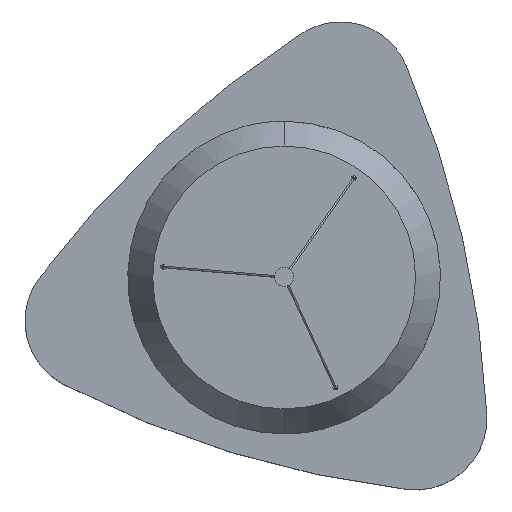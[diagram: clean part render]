
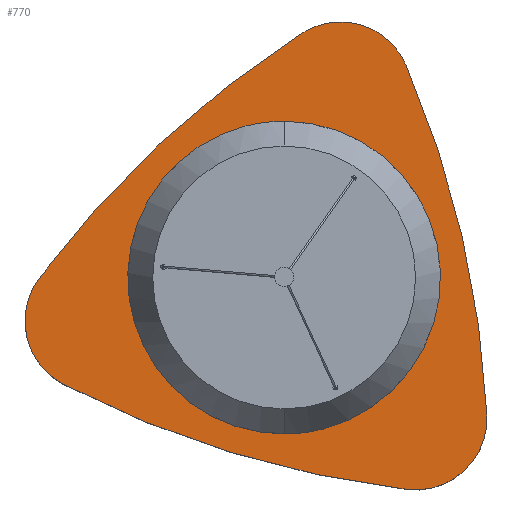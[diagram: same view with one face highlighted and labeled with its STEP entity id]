
A CAD part, top view. The second image highlights one B-rep face of the part: STEP entity #770.
In plain terms, the highlighted planar face has unit normal (0, 0, 1).
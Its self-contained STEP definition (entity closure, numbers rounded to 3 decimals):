
#10=CARTESIAN_POINT('',(44.814,196.086,
-4.8));
#20=DIRECTION('',(0.,0.,1.));
#30=DIRECTION('',(1.,0.,0.));
#40=AXIS2_PLACEMENT_3D('',#10,#20,#30);
#50=PLANE('',#40);
#60=CARTESIAN_POINT('',(475.126,-509.51,
-4.8));
#70=DIRECTION('',(0.,0.,-1.));
#80=DIRECTION('',(1.,0.,0.));
#90=AXIS2_PLACEMENT_3D('',#60,#70,#80);
#100=CIRCLE('',#90,850.);
#110=CARTESIAN_POINT('',(-205.563,-0.43,
-4.8));
#120=VERTEX_POINT('',#110);
#130=CARTESIAN_POINT('',(14.768,205.033,
-4.8));
#140=VERTEX_POINT('',#130);
#150=EDGE_CURVE('',#120,#140,#100,.T.);
#160=ORIENTED_EDGE('',*,*,#150,.F.);
#170=CARTESIAN_POINT('',(47.264,154.594,
-4.8));
#180=DIRECTION('',(0.,0.,-1.));
#190=DIRECTION('',(1.,0.,0.));
#200=AXIS2_PLACEMENT_3D('',#170,#180,#190);
#210=CIRCLE('',#200,60.);
#220=CARTESIAN_POINT('',(102.409,178.238,
-4.8));
#230=VERTEX_POINT('',#220);
#240=EDGE_CURVE('',#140,#230,#210,.T.);
#250=ORIENTED_EDGE('',*,*,#240,.F.);
#260=CARTESIAN_POINT('',(-678.811,-156.716,
-4.8));
#270=DIRECTION('',(0.,0.,-1.));
#280=DIRECTION('',(1.,0.,0.));
#290=AXIS2_PLACEMENT_3D('',#260,#270,#280);
#300=CIRCLE('',#290,850.);
#310=CARTESIAN_POINT('',(170.179,-115.306,
-4.8));
#320=VERTEX_POINT('',#310);
#330=EDGE_CURVE('',#230,#320,#300,.T.);
#340=ORIENTED_EDGE('',*,*,#330,.F.);
#350=CARTESIAN_POINT('',(110.251,-118.229,
-4.8));
#360=DIRECTION('',(0.,0.,-1.));
#370=DIRECTION('',(1.,0.,0.));
#380=AXIS2_PLACEMENT_3D('',#350,#360,#370);
#390=CIRCLE('',#380,60.);
#400=CARTESIAN_POINT('',(103.154,-177.808,
-4.8));
#410=VERTEX_POINT('',#400);
#420=EDGE_CURVE('',#320,#410,#390,.T.);
#430=ORIENTED_EDGE('',*,*,#420,.F.);
#440=CARTESIAN_POINT('',(203.686,666.226,
-4.8));
#450=DIRECTION('',(0.,0.,-1.));
#460=DIRECTION('',(1.,0.,0.));
#470=AXIS2_PLACEMENT_3D('',#440,#450,#460);
#480=CIRCLE('',#470,850.);
#490=CARTESIAN_POINT('',(-184.948,-89.727,
-4.8));
#500=VERTEX_POINT('',#490);
#510=EDGE_CURVE('',#410,#500,#480,.T.);
#520=ORIENTED_EDGE('',*,*,#510,.F.);
#530=CARTESIAN_POINT('',(-157.515,-36.365,
-4.8));
#540=DIRECTION('',(0.,0.,-1.));
#550=DIRECTION('',(1.,0.,0.));
#560=AXIS2_PLACEMENT_3D('',#530,#540,#550);
#570=CIRCLE('',#560,60.);
#580=EDGE_CURVE('',#500,#120,#570,.T.);
#590=ORIENTED_EDGE('',*,*,#580,.F.);
#600=EDGE_LOOP('',(#590,#520,#430,#340,#250,#160));
#610=FACE_OUTER_BOUND('',#600,.T.);
#620=CARTESIAN_POINT('',(0.,0.,
-4.8));
#630=DIRECTION('',(0.,0.,1.));
#640=DIRECTION('',(0.25,-0.968,-0.));
#650=AXIS2_PLACEMENT_3D('',#620,#630,#640);
#660=CIRCLE('',#650,130.248);
#670=CARTESIAN_POINT('',(32.612,-126.099,
-4.8));
#680=VERTEX_POINT('',#670);
#690=CARTESIAN_POINT('',(-32.612,126.099,
-4.8));
#700=VERTEX_POINT('',#690);
#710=EDGE_CURVE('',#680,#700,#660,.T.);
#720=ORIENTED_EDGE('',*,*,#710,.F.);
#730=EDGE_CURVE('',#700,#680,#660,.T.);
#740=ORIENTED_EDGE('',*,*,#730,.F.);
#750=EDGE_LOOP('',(#740,#720));
#760=FACE_BOUND('',#750,.T.);
#770=ADVANCED_FACE('',(#610,#760),#50,.T.);
